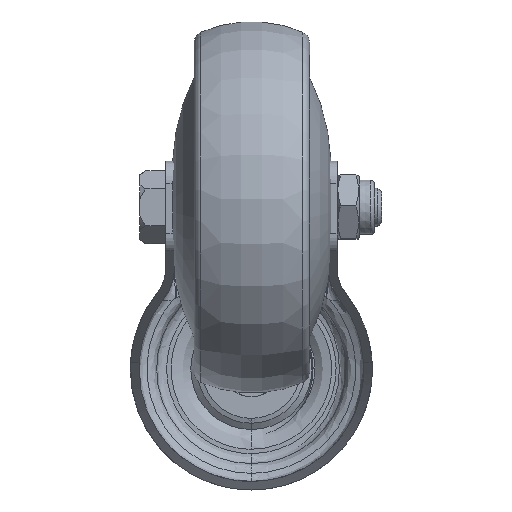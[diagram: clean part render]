
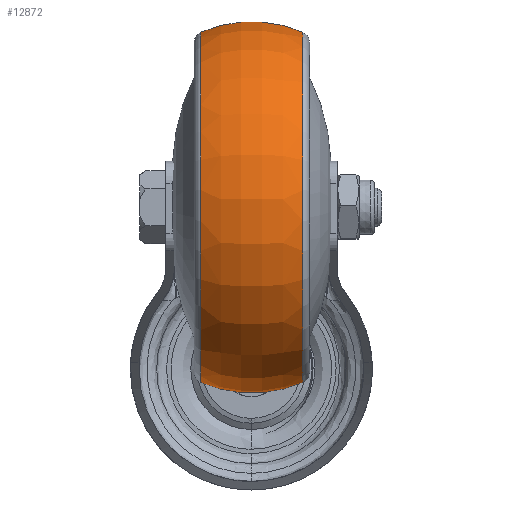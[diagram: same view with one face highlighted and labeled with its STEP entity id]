
A CAD part, front view. The second image highlights one B-rep face of the part: STEP entity #12872.
In plain terms, the highlighted toroidal (fillet/blend) face has major radius 16 mm and minor radius 34 mm.
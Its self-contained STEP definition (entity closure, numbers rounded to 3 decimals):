
#850 = CARTESIAN_POINT ( 'NONE',  ( 0., 0., 16. ) ) ;
#1677 = AXIS2_PLACEMENT_3D ( 'NONE', #5674, #12596, #10167 ) ;
#1990 = AXIS2_PLACEMENT_3D ( 'NONE', #2154, #6734, #13498 ) ;
#2045 = AXIS2_PLACEMENT_3D ( 'NONE', #7730, #2118, #6633 ) ;
#2118 = DIRECTION ( 'NONE',  ( -1., 0., 0. ) ) ;
#2154 = CARTESIAN_POINT ( 'NONE',  ( 0., 0., 0. ) ) ;
#2921 = ORIENTED_EDGE ( 'NONE', *, *, #7035, .T. ) ;
#3024 = CARTESIAN_POINT ( 'NONE',  ( 13.71, 0., -47.113 ) ) ;
#3202 = TOROIDAL_SURFACE ( 'NONE', #1990, 16., 34. ) ;
#3222 = CARTESIAN_POINT ( 'NONE',  ( -13.71, 0., -47.113 ) ) ;
#3543 = AXIS2_PLACEMENT_3D ( 'NONE', #9849, #14179, #6600 ) ;
#5343 = DIRECTION ( 'NONE',  ( 0., 0., -1. ) ) ;
#5674 = CARTESIAN_POINT ( 'NONE',  ( 13.71, 0., 0. ) ) ;
#6173 = CIRCLE ( 'NONE', #3543, 34. ) ;
#6175 = CARTESIAN_POINT ( 'NONE',  ( 13.71, 0., 47.113 ) ) ;
#6600 = DIRECTION ( 'NONE',  ( 0., 0., 1. ) ) ;
#6633 = DIRECTION ( 'NONE',  ( 0., 0., 1. ) ) ;
#6734 = DIRECTION ( 'NONE',  ( -1., 0., 0. ) ) ;
#7035 = EDGE_CURVE ( 'NONE', #10578, #7686, #11000, .T. ) ;
#7343 = VERTEX_POINT ( 'NONE', #3222 ) ;
#7509 = EDGE_CURVE ( 'NONE', #7343, #7686, #7699, .T. ) ;
#7686 = VERTEX_POINT ( 'NONE', #10668 ) ;
#7699 = CIRCLE ( 'NONE', #2045, 47.113 ) ;
#7730 = CARTESIAN_POINT ( 'NONE',  ( -13.71, 0., 0. ) ) ;
#8270 = EDGE_CURVE ( 'NONE', #8730, #7343, #6173, .T. ) ;
#8336 = ORIENTED_EDGE ( 'NONE', *, *, #8270, .F. ) ;
#8425 = DIRECTION ( 'NONE',  ( 0., -1., 0. ) ) ;
#8511 = CIRCLE ( 'NONE', #1677, 47.113 ) ;
#8730 = VERTEX_POINT ( 'NONE', #3024 ) ;
#8871 = AXIS2_PLACEMENT_3D ( 'NONE', #850, #8425, #5343 ) ;
#9014 = ORIENTED_EDGE ( 'NONE', *, *, #14119, .T. ) ;
#9280 = EDGE_LOOP ( 'NONE', ( #8336, #9014, #2921, #13622 ) ) ;
#9849 = CARTESIAN_POINT ( 'NONE',  ( 0., 0., -16. ) ) ;
#10167 = DIRECTION ( 'NONE',  ( 0., 0., 1. ) ) ;
#10191 = FACE_OUTER_BOUND ( 'NONE', #9280, .T. ) ;
#10578 = VERTEX_POINT ( 'NONE', #6175 ) ;
#10668 = CARTESIAN_POINT ( 'NONE',  ( -13.71, 0., 47.113 ) ) ;
#11000 = CIRCLE ( 'NONE', #8871, 34. ) ;
#12596 = DIRECTION ( 'NONE',  ( -1., 0., 0. ) ) ;
#12872 = ADVANCED_FACE ( 'NONE', ( #10191 ), #3202, .T. ) ;
#13498 = DIRECTION ( 'NONE',  ( 0., 0., 1. ) ) ;
#13622 = ORIENTED_EDGE ( 'NONE', *, *, #7509, .F. ) ;
#14119 = EDGE_CURVE ( 'NONE', #8730, #10578, #8511, .T. ) ;
#14179 = DIRECTION ( 'NONE',  ( 0., 1., 0. ) ) ;
